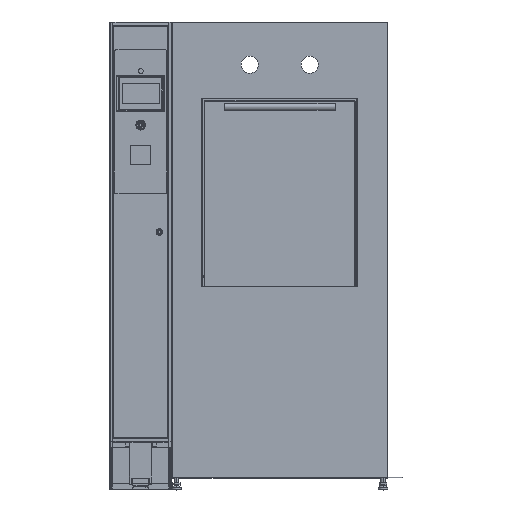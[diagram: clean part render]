
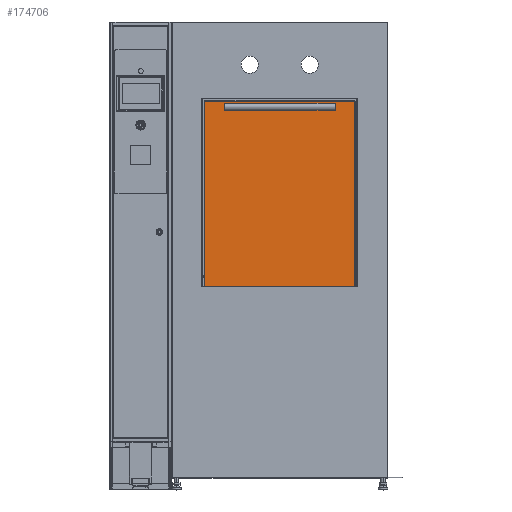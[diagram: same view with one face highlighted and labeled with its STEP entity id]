
A CAD part, top view. The second image highlights one B-rep face of the part: STEP entity #174706.
In plain terms, the highlighted planar face has unit normal (0, 0, 1).
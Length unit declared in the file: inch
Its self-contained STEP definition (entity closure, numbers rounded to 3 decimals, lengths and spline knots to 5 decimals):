
#9926 = ORIENTED_EDGE ( 'NONE', *, *, #145495, .T. ) ;
#11442 = VERTEX_POINT ( 'NONE', #27769 ) ;
#15527 = ORIENTED_EDGE ( 'NONE', *, *, #185486, .T. ) ;
#16879 = CARTESIAN_POINT ( 'NONE',  ( 12.5875, 16.5, 0.048 ) ) ;
#27769 = CARTESIAN_POINT ( 'NONE',  ( 12.5085, 16.421, 0.048 ) ) ;
#31065 = ORIENTED_EDGE ( 'NONE', *, *, #39851, .T. ) ;
#36176 = LINE ( 'NONE', #127245, #101129 ) ;
#39851 = EDGE_CURVE ( 'NONE', #203400, #11442, #131664, .T. ) ;
#62617 = CARTESIAN_POINT ( 'NONE',  ( 12.5085, -16.421, 0.048 ) ) ;
#62946 = PLANE ( 'NONE',  #155880 ) ;
#66824 = CARTESIAN_POINT ( 'NONE',  ( 12.5085, -16.42416, 0.048 ) ) ;
#101129 = VECTOR ( 'NONE', #148088, 39.37008 ) ;
#107938 = FACE_OUTER_BOUND ( 'NONE', #118775, .T. ) ;
#111703 = VECTOR ( 'NONE', #160579, 39.37008 ) ;
#114561 = LINE ( 'NONE', #128191, #111703 ) ;
#118775 = EDGE_LOOP ( 'NONE', ( #182800, #31065, #9926, #15527 ) ) ;
#127245 = CARTESIAN_POINT ( 'NONE',  ( -12.51166, -16.421, 0.048 ) ) ;
#128191 = CARTESIAN_POINT ( 'NONE',  ( -12.5085, 16.42416, 0.048 ) ) ;
#130623 = DIRECTION ( 'NONE',  ( 0., 1., 0. ) ) ;
#130900 = DIRECTION ( 'NONE',  ( -1., 0., 0. ) ) ;
#131664 = LINE ( 'NONE', #66824, #144490 ) ;
#136787 = VERTEX_POINT ( 'NONE', #154689 ) ;
#142218 = VERTEX_POINT ( 'NONE', #142413 ) ;
#142413 = CARTESIAN_POINT ( 'NONE',  ( -12.5085, 16.421, 0.048 ) ) ;
#144490 = VECTOR ( 'NONE', #130623, 39.37008 ) ;
#145495 = EDGE_CURVE ( 'NONE', #11442, #142218, #178995, .T. ) ;
#146592 = CARTESIAN_POINT ( 'NONE',  ( 12.51166, 16.421, 0.048 ) ) ;
#148088 = DIRECTION ( 'NONE',  ( 1., 0., 0. ) ) ;
#154689 = CARTESIAN_POINT ( 'NONE',  ( -12.5085, -16.421, 0.048 ) ) ;
#155219 = VECTOR ( 'NONE', #130900, 39.37008 ) ;
#155880 = AXIS2_PLACEMENT_3D ( 'NONE', #16879, #190523, #158108 ) ;
#158108 = DIRECTION ( 'NONE',  ( -1., 0., 0. ) ) ;
#160579 = DIRECTION ( 'NONE',  ( 0., -1., 0. ) ) ;
#166058 = EDGE_CURVE ( 'NONE', #136787, #203400, #36176, .T. ) ;
#174706 = ADVANCED_FACE ( 'NONE', ( #107938 ), #62946, .F. ) ;
#178995 = LINE ( 'NONE', #146592, #155219 ) ;
#182800 = ORIENTED_EDGE ( 'NONE', *, *, #166058, .T. ) ;
#185486 = EDGE_CURVE ( 'NONE', #142218, #136787, #114561, .T. ) ;
#190523 = DIRECTION ( 'NONE',  ( 0., 0., -1. ) ) ;
#203400 = VERTEX_POINT ( 'NONE', #62617 ) ;
